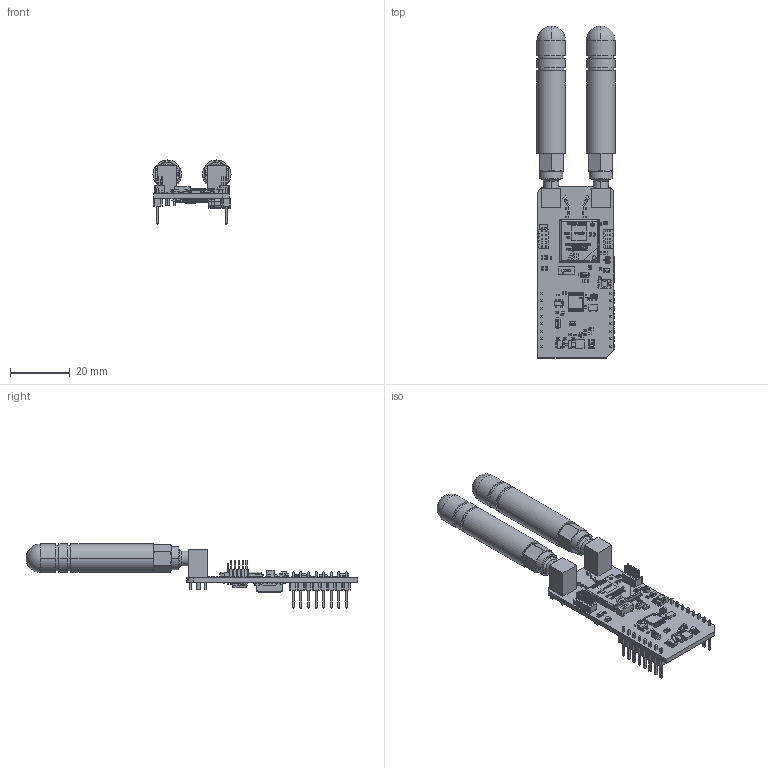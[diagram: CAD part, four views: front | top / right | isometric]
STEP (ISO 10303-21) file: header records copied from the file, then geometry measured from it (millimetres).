
FILE_DESCRIPTION(('Open CASCADE Model'),'2;1');
FILE_NAME('Open CASCADE Shape Model','2025-10-13T12:35:28',('Author'),( 'Open CASCADE'),'Open CASCADE STEP processor 6.8','Open CASCADE 6.8' ,'Unknown');
FILE_SCHEMA(('AUTOMOTIVE_DESIGN { 1 0 10303 214 1 1 1 1 }'));
Length unit declared in the file: millimetre
Products named in the file (165): PCB; Board; U5; User_Library-SOT23-5-2; R14; User_Library-R_0402; R12; R6; Q5; SOT323_(SC70-3)-1; User_Library-SOT323_(SC70-3)-1_K_X_F6rper_1; User_Library-SOT323_(SC70-3)-1_Beschriftung_1; User_Library-SOT323_(SC70-3)-1_Pins_1; D3; User_Library-SOT50P160X60-6; D2; SOD123F; C21; User_Library-SMD_CAPACITOR0402; C4; C3; C2; J4; hm2x5_1.27; J1; U2; User_Library-SOT23-6-2; U1; 1842286440; Extruded; Q1; SOT23-3; R4; C1; R2; JP1; User_Library-R_0805; LD1; led_0805_green; R1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
Assembly tree (243 placements, depth 10):
  PCB
    Board
    U5
      User_Library-SOT23-5-2
    R14
      User_Library-R_0402
    R12
      User_Library-R_0402
    R6
      User_Library-R_0402
    Q5
      SOT323_(SC70-3)-1
        User_Library-SOT323_(SC70-3)-1_K_X_F6rper_1
        User_Library-SOT323_(SC70-3)-1_Beschriftung_1
        User_Library-SOT323_(SC70-3)-1_Pins_1  x3
    D3
      User_Library-SOT50P160X60-6
    D2
      SOD123F
    C21
      User_Library-SMD_CAPACITOR0402
    C4
      User_Library-SMD_CAPACITOR0402
    C3
      User_Library-SMD_CAPACITOR0402
    C2
      User_Library-SMD_CAPACITOR0402
    J4
      hm2x5_1.27
    J1
      hm2x5_1.27
    U2
      User_Library-SOT23-6-2
    U1
      1842286440
        Extruded
    Q1
      SOT23-3
    R4
      User_Library-R_0402
    C1
      User_Library-SMD_CAPACITOR0402
    R2
      User_Library-R_0402
    JP1
      User_Library-R_0805
    LD1
      led_0805_green
    R1
      User_Library-R_0805
    R3
      User_Library-R_0402
    MBD1
      Header_1x8  x2
        PCB
          Free-Models
            1240637040  x2
              User_Library-PinHeaderX5-1_PinHeaderX5_Body_1
              User_Library-PinHeaderX5-1_PinHeaderX5_Pins_1
    C5
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Bounding box: 26.06 x 110.79 x 21.36 mm (x, y, z)
Volume: 11116.3 mm3; surface area: 13076.9 mm2
Topology: 221 solids, 223 shells, 10347 faces, 26213 edges, 16651 vertices
Faces by surface type: plane 6494, bspline 2259, cylinder 1258, sphere 296, torus 22, cone 18
Full cylindrical faces by diameter (mm): 0.6 x2, 1.25 x2, 1.307 x12
Entity records: 182424 total; most frequent: CARTESIAN_POINT 48005, ORIENTED_EDGE 23286, DIRECTION 18608, EDGE_CURVE 11645, LINE 8116, VECTOR 8116, VERTEX_POINT 7609, AXIS2_PLACEMENT_3D 5246
